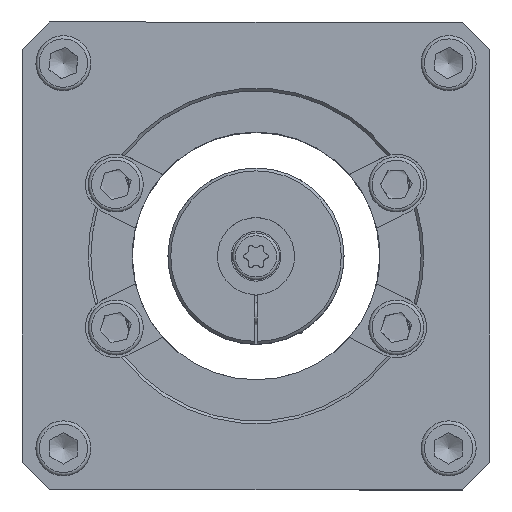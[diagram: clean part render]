
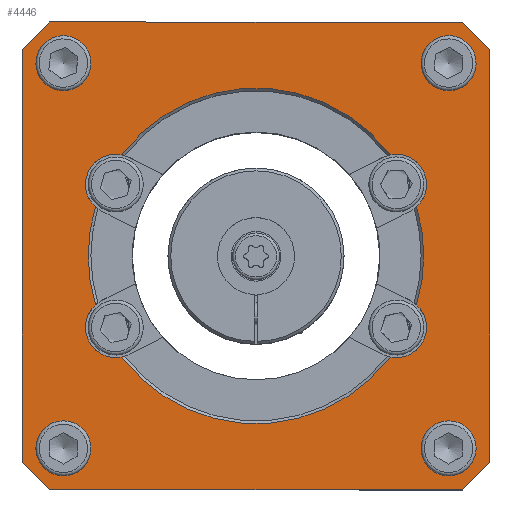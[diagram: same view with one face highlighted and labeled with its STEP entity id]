
A CAD part, top view. The second image highlights one B-rep face of the part: STEP entity #4446.
In plain terms, the highlighted planar face has unit normal (0, 0, 1).
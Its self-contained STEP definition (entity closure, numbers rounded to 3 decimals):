
#177=FACE_BOUND('',#764,.T.);
#178=FACE_BOUND('',#765,.T.);
#179=FACE_BOUND('',#766,.T.);
#180=FACE_BOUND('',#767,.T.);
#181=FACE_BOUND('',#768,.T.);
#261=PLANE('',#5054);
#490=FACE_OUTER_BOUND('',#763,.T.);
#763=EDGE_LOOP('',(#3798,#3799,#3800,#3801,#3802,#3803,#3804,#3805));
#764=EDGE_LOOP('',(#3806));
#765=EDGE_LOOP('',(#3807));
#766=EDGE_LOOP('',(#3808));
#767=EDGE_LOOP('',(#3809));
#768=EDGE_LOOP('',(#3810,#3811,#3812,#3813,#3814,#3815,#3816,#3817));
#1093=LINE('',#7710,#1423);
#1094=LINE('',#7712,#1424);
#1095=LINE('',#7714,#1425);
#1096=LINE('',#7716,#1426);
#1097=LINE('',#7718,#1427);
#1098=LINE('',#7720,#1428);
#1099=LINE('',#7722,#1429);
#1100=LINE('',#7723,#1430);
#1423=VECTOR('',#6215,10.);
#1424=VECTOR('',#6216,10.);
#1425=VECTOR('',#6217,10.);
#1426=VECTOR('',#6218,10.);
#1427=VECTOR('',#6219,10.);
#1428=VECTOR('',#6220,10.);
#1429=VECTOR('',#6221,10.);
#1430=VECTOR('',#6222,10.);
#1722=CIRCLE('',#5047,30.5);
#1724=CIRCLE('',#5050,5.5);
#1728=CIRCLE('',#5055,2.459);
#1729=CIRCLE('',#5056,2.459);
#1730=CIRCLE('',#5057,2.459);
#1731=CIRCLE('',#5058,2.459);
#1732=CIRCLE('',#5059,5.5);
#1733=CIRCLE('',#5060,30.5);
#1734=CIRCLE('',#5061,5.5);
#1735=CIRCLE('',#5062,30.5);
#1736=CIRCLE('',#5063,5.5);
#1737=CIRCLE('',#5064,30.5);
#2101=VERTEX_POINT('',#7666);
#2103=VERTEX_POINT('',#7674);
#2105=VERTEX_POINT('',#7685);
#2113=VERTEX_POINT('',#7708);
#2114=VERTEX_POINT('',#7709);
#2115=VERTEX_POINT('',#7711);
#2116=VERTEX_POINT('',#7713);
#2117=VERTEX_POINT('',#7715);
#2118=VERTEX_POINT('',#7717);
#2119=VERTEX_POINT('',#7719);
#2120=VERTEX_POINT('',#7721);
#2121=VERTEX_POINT('',#7724);
#2122=VERTEX_POINT('',#7726);
#2123=VERTEX_POINT('',#7728);
#2124=VERTEX_POINT('',#7730);
#2125=VERTEX_POINT('',#7732);
#2126=VERTEX_POINT('',#7734);
#2127=VERTEX_POINT('',#7736);
#2128=VERTEX_POINT('',#7738);
#2129=VERTEX_POINT('',#7740);
#2687=EDGE_CURVE('',#2101,#2103,#1722,.T.);
#2690=EDGE_CURVE('',#2105,#2103,#1724,.T.);
#2699=EDGE_CURVE('',#2113,#2114,#1093,.T.);
#2700=EDGE_CURVE('',#2115,#2113,#1094,.T.);
#2701=EDGE_CURVE('',#2116,#2115,#1095,.T.);
#2702=EDGE_CURVE('',#2117,#2116,#1096,.T.);
#2703=EDGE_CURVE('',#2118,#2117,#1097,.T.);
#2704=EDGE_CURVE('',#2119,#2118,#1098,.T.);
#2705=EDGE_CURVE('',#2120,#2119,#1099,.T.);
#2706=EDGE_CURVE('',#2114,#2120,#1100,.T.);
#2707=EDGE_CURVE('',#2121,#2121,#1728,.T.);
#2708=EDGE_CURVE('',#2122,#2122,#1729,.T.);
#2709=EDGE_CURVE('',#2123,#2123,#1730,.T.);
#2710=EDGE_CURVE('',#2124,#2124,#1731,.T.);
#2711=EDGE_CURVE('',#2101,#2125,#1732,.T.);
#2712=EDGE_CURVE('',#2126,#2125,#1733,.T.);
#2713=EDGE_CURVE('',#2126,#2127,#1734,.T.);
#2714=EDGE_CURVE('',#2128,#2127,#1735,.T.);
#2715=EDGE_CURVE('',#2128,#2129,#1736,.T.);
#2716=EDGE_CURVE('',#2105,#2129,#1737,.T.);
#3798=ORIENTED_EDGE('',*,*,#2699,.F.);
#3799=ORIENTED_EDGE('',*,*,#2700,.F.);
#3800=ORIENTED_EDGE('',*,*,#2701,.F.);
#3801=ORIENTED_EDGE('',*,*,#2702,.F.);
#3802=ORIENTED_EDGE('',*,*,#2703,.F.);
#3803=ORIENTED_EDGE('',*,*,#2704,.F.);
#3804=ORIENTED_EDGE('',*,*,#2705,.F.);
#3805=ORIENTED_EDGE('',*,*,#2706,.F.);
#3806=ORIENTED_EDGE('',*,*,#2707,.T.);
#3807=ORIENTED_EDGE('',*,*,#2708,.T.);
#3808=ORIENTED_EDGE('',*,*,#2709,.T.);
#3809=ORIENTED_EDGE('',*,*,#2710,.T.);
#3810=ORIENTED_EDGE('',*,*,#2687,.F.);
#3811=ORIENTED_EDGE('',*,*,#2711,.T.);
#3812=ORIENTED_EDGE('',*,*,#2712,.F.);
#3813=ORIENTED_EDGE('',*,*,#2713,.T.);
#3814=ORIENTED_EDGE('',*,*,#2714,.F.);
#3815=ORIENTED_EDGE('',*,*,#2715,.T.);
#3816=ORIENTED_EDGE('',*,*,#2716,.F.);
#3817=ORIENTED_EDGE('',*,*,#2690,.T.);
#4446=ADVANCED_FACE('',(#490,#177,#178,#179,#180,#181),#261,.T.);
#5047=AXIS2_PLACEMENT_3D('',#7675,#6195,#6196);
#5050=AXIS2_PLACEMENT_3D('',#7686,#6201,#6202);
#5054=AXIS2_PLACEMENT_3D('',#7707,#6213,#6214);
#5055=AXIS2_PLACEMENT_3D('',#7725,#6223,#6224);
#5056=AXIS2_PLACEMENT_3D('',#7727,#6225,#6226);
#5057=AXIS2_PLACEMENT_3D('',#7729,#6227,#6228);
#5058=AXIS2_PLACEMENT_3D('',#7731,#6229,#6230);
#5059=AXIS2_PLACEMENT_3D('',#7733,#6231,#6232);
#5060=AXIS2_PLACEMENT_3D('',#7735,#6233,#6234);
#5061=AXIS2_PLACEMENT_3D('',#7737,#6235,#6236);
#5062=AXIS2_PLACEMENT_3D('',#7739,#6237,#6238);
#5063=AXIS2_PLACEMENT_3D('',#7741,#6239,#6240);
#5064=AXIS2_PLACEMENT_3D('',#7742,#6241,#6242);
#6195=DIRECTION('center_axis',(0.,0.,1.));
#6196=DIRECTION('ref_axis',(1.,0.,0.));
#6201=DIRECTION('center_axis',(0.,0.,-1.));
#6202=DIRECTION('ref_axis',(0.454,0.891,0.));
#6213=DIRECTION('center_axis',(0.,0.,1.));
#6214=DIRECTION('ref_axis',(1.,0.,0.));
#6215=DIRECTION('',(0.707,-0.707,0.));
#6216=DIRECTION('',(1.,0.,0.));
#6217=DIRECTION('',(0.707,0.707,0.));
#6218=DIRECTION('',(0.,1.,0.));
#6219=DIRECTION('',(-0.707,0.707,0.));
#6220=DIRECTION('',(-1.,0.,0.));
#6221=DIRECTION('',(-0.707,-0.707,0.));
#6222=DIRECTION('',(0.,-1.,0.));
#6223=DIRECTION('center_axis',(0.,0.,-1.));
#6224=DIRECTION('ref_axis',(1.,0.,0.));
#6225=DIRECTION('center_axis',(0.,0.,-1.));
#6226=DIRECTION('ref_axis',(1.,0.,0.));
#6227=DIRECTION('center_axis',(0.,0.,-1.));
#6228=DIRECTION('ref_axis',(1.,0.,0.));
#6229=DIRECTION('center_axis',(0.,0.,-1.));
#6230=DIRECTION('ref_axis',(1.,0.,0.));
#6231=DIRECTION('center_axis',(0.,0.,-1.));
#6232=DIRECTION('ref_axis',(0.454,-0.891,0.));
#6233=DIRECTION('center_axis',(0.,0.,1.));
#6234=DIRECTION('ref_axis',(1.,0.,0.));
#6235=DIRECTION('center_axis',(0.,0.,-1.));
#6236=DIRECTION('ref_axis',(-0.454,-0.891,0.));
#6237=DIRECTION('center_axis',(0.,0.,1.));
#6238=DIRECTION('ref_axis',(1.,0.,0.));
#6239=DIRECTION('center_axis',(0.,0.,-1.));
#6240=DIRECTION('ref_axis',(-0.454,0.891,0.));
#6241=DIRECTION('center_axis',(0.,0.,1.));
#6242=DIRECTION('ref_axis',(-1.,0.,0.));
#7666=CARTESIAN_POINT('',(24.342,18.377,28.));
#7674=CARTESIAN_POINT('',(-24.342,18.377,28.));
#7675=CARTESIAN_POINT('Origin',(0.,0.,28.));
#7685=CARTESIAN_POINT('',(-29.171,8.905,28.));
#7686=CARTESIAN_POINT('Origin',(-25.5,13.,28.));
#7707=CARTESIAN_POINT('Origin',(0.,0.,28.));
#7708=CARTESIAN_POINT('',(37.5,42.5,28.));
#7709=CARTESIAN_POINT('',(42.5,37.5,28.));
#7710=CARTESIAN_POINT('',(40.,40.,28.));
#7711=CARTESIAN_POINT('',(-37.5,42.5,28.));
#7712=CARTESIAN_POINT('',(-42.5,42.5,28.));
#7713=CARTESIAN_POINT('',(-42.5,37.5,28.));
#7714=CARTESIAN_POINT('',(-40.,40.,28.));
#7715=CARTESIAN_POINT('',(-42.5,-37.5,28.));
#7716=CARTESIAN_POINT('',(-42.5,-42.5,28.));
#7717=CARTESIAN_POINT('',(-37.5,-42.5,28.));
#7718=CARTESIAN_POINT('',(-40.,-40.,28.));
#7719=CARTESIAN_POINT('',(37.5,-42.5,28.));
#7720=CARTESIAN_POINT('',(42.5,-42.5,28.));
#7721=CARTESIAN_POINT('',(42.5,-37.5,28.));
#7722=CARTESIAN_POINT('',(40.,-40.,28.));
#7723=CARTESIAN_POINT('',(42.5,42.5,28.));
#7724=CARTESIAN_POINT('',(-37.459,-35.,28.));
#7725=CARTESIAN_POINT('Origin',(-35.,-35.,28.));
#7726=CARTESIAN_POINT('',(-37.459,35.,28.));
#7727=CARTESIAN_POINT('Origin',(-35.,35.,28.));
#7728=CARTESIAN_POINT('',(32.542,-35.,28.));
#7729=CARTESIAN_POINT('Origin',(35.,-35.,28.));
#7730=CARTESIAN_POINT('',(32.542,35.,28.));
#7731=CARTESIAN_POINT('Origin',(35.,35.,28.));
#7732=CARTESIAN_POINT('',(29.171,8.905,28.));
#7733=CARTESIAN_POINT('Origin',(25.5,13.,28.));
#7734=CARTESIAN_POINT('',(29.171,-8.905,28.));
#7735=CARTESIAN_POINT('Origin',(0.,0.,28.));
#7736=CARTESIAN_POINT('',(24.342,-18.377,28.));
#7737=CARTESIAN_POINT('Origin',(25.5,-13.,28.));
#7738=CARTESIAN_POINT('',(-24.342,-18.377,28.));
#7739=CARTESIAN_POINT('Origin',(0.,0.,28.));
#7740=CARTESIAN_POINT('',(-29.171,-8.905,28.));
#7741=CARTESIAN_POINT('Origin',(-25.5,-13.,28.));
#7742=CARTESIAN_POINT('Origin',(0.,0.,28.));
